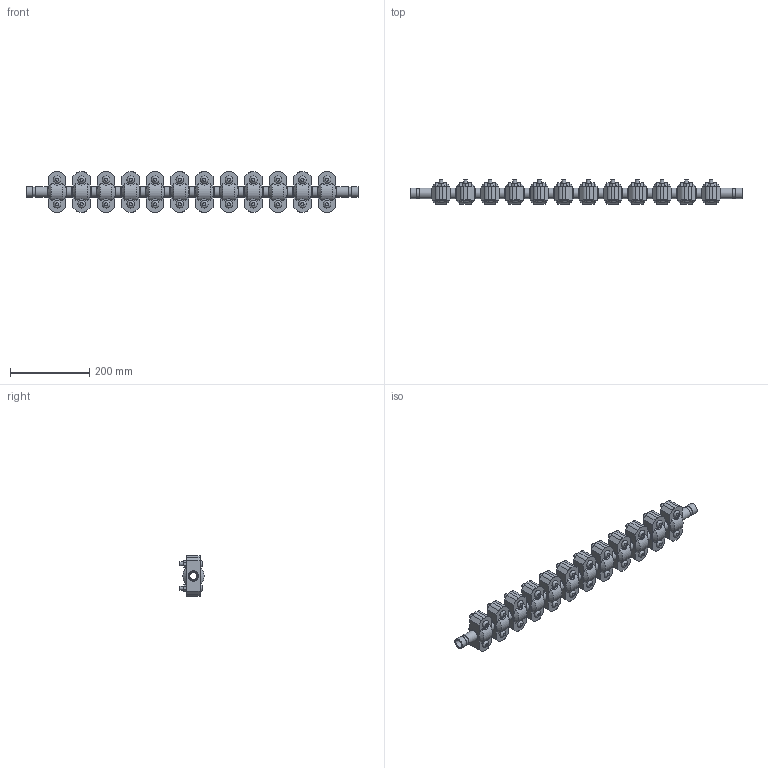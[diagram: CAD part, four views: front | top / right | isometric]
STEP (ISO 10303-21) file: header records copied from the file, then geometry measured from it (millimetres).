
FILE_DESCRIPTION(/* description */ ('VIC EXPANSION JOINT 12 COUPLINGS EXPANDED STYLE 155 (OGS)','CAx-IF Rec.Pracs.---Representation and Presentation of Product Manufacturing Information (PMI)---4.0---2014-10-13'),/* implementation_level */ '2;1');
FILE_NAME(/* name */ 'C:\Users\kkamble\AppData\Roaming\Autodesk\ApplicationPlugins\Victaulic.Temp\A519\Victaulic_IPS_Expansion Joint_Expanded_12 Couplings_Style 155 (OGS)_0.75 (20).stp',/* time_stamp */ '2021-06-26T23:53:44+02:00',/* author */ ('kkamble'),/* organization */ ('Victaulic'),/* preprocessor_version */ 'ST-DEVELOPER v17.2',/* originating_system */ 'Autodesk Inventor 2019',/* authorisation */ '');
FILE_SCHEMA (('AP242_MANAGED_MODEL_BASED_3D_ENGINEERING_MIM_LF { 1 0 10303 442 1 1 4 }'));
Length unit declared in the file: inch
Products named in the file (4): 155-0.75; Nipple-0.75; Nipple-0.75_1; 077-0.75
Assembly tree (25 placements, depth 2):
  155-0.75
    Nipple-0.75  x2
    Nipple-0.75_1  x11
    077-0.75  x12
Bounding box: 838.45 x 61.1 x 101.6 mm (x, y, z)
Volume: 1848269.7 mm3; surface area: 464773.4 mm2
Topology: 25 solids, 49 shells, 888 faces, 2130 edges, 1488 vertices
Faces by surface type: plane 510, cylinder 306, cone 48, bspline 24
Full cylindrical faces by diameter (mm): 9.525 x48, 11.43 x24, 17.78 x12, 20.93 x13, 23.825 x26, 26.67 x63
Entity records: 3113 total; most frequent: CARTESIAN_POINT 601, DIRECTION 513, ORIENTED_EDGE 410, AXIS2_PLACEMENT_3D 208, EDGE_CURVE 205, VERTEX_POINT 146, EDGE_LOOP 111, LINE 97
